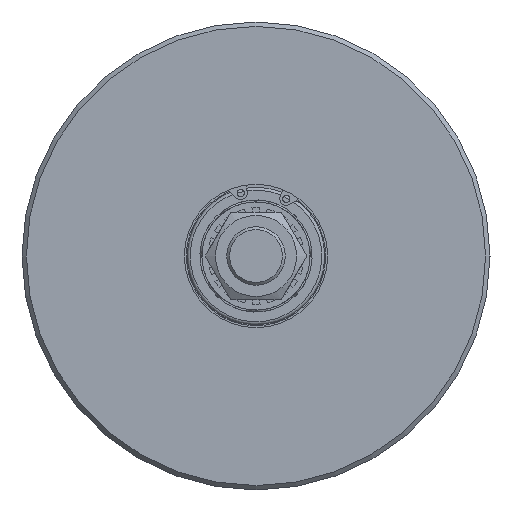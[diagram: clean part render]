
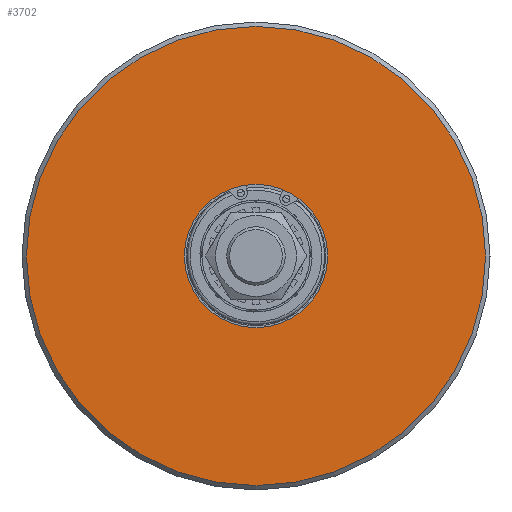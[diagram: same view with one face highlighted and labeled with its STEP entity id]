
A CAD part, left-side view. The second image highlights one B-rep face of the part: STEP entity #3702.
In plain terms, the highlighted planar face has unit normal (-1, 0, 0) as drawn and (1, 0, 0) by its records, which use the part's own axes.
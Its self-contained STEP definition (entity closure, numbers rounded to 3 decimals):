
#632=PLANE('',#3940);
#830=FACE_BOUND('',#1127,.T.);
#907=FACE_OUTER_BOUND('',#1126,.T.);
#1126=EDGE_LOOP('',(#2607));
#1127=EDGE_LOOP('',(#2608));
#1407=CIRCLE('',#3939,78.5);
#1408=CIRCLE('',#3941,24.5);
#1663=VERTEX_POINT('',#5696);
#1664=VERTEX_POINT('',#5699);
#2048=EDGE_CURVE('',#1663,#1663,#1407,.T.);
#2049=EDGE_CURVE('',#1664,#1664,#1408,.T.);
#2607=ORIENTED_EDGE('',*,*,#2048,.T.);
#2608=ORIENTED_EDGE('',*,*,#2049,.F.);
#3702=ADVANCED_FACE('',(#907,#830),#632,.T.);
#3939=AXIS2_PLACEMENT_3D('',#5697,#4457,#4458);
#3940=AXIS2_PLACEMENT_3D('',#5698,#4459,#4460);
#3941=AXIS2_PLACEMENT_3D('',#5700,#4461,#4462);
#4457=DIRECTION('center_axis',(1.,0.,0.));
#4458=DIRECTION('ref_axis',(0.,1.,0.));
#4459=DIRECTION('center_axis',(1.,0.,0.));
#4460=DIRECTION('ref_axis',(0.,0.,-1.));
#4461=DIRECTION('center_axis',(1.,0.,0.));
#4462=DIRECTION('ref_axis',(0.,1.,0.));
#5696=CARTESIAN_POINT('',(15.,78.5,0.));
#5697=CARTESIAN_POINT('Origin',(15.,0.,0.));
#5698=CARTESIAN_POINT('Origin',(15.,51.5,0.));
#5699=CARTESIAN_POINT('',(15.,24.5,0.));
#5700=CARTESIAN_POINT('Origin',(15.,0.,0.));
